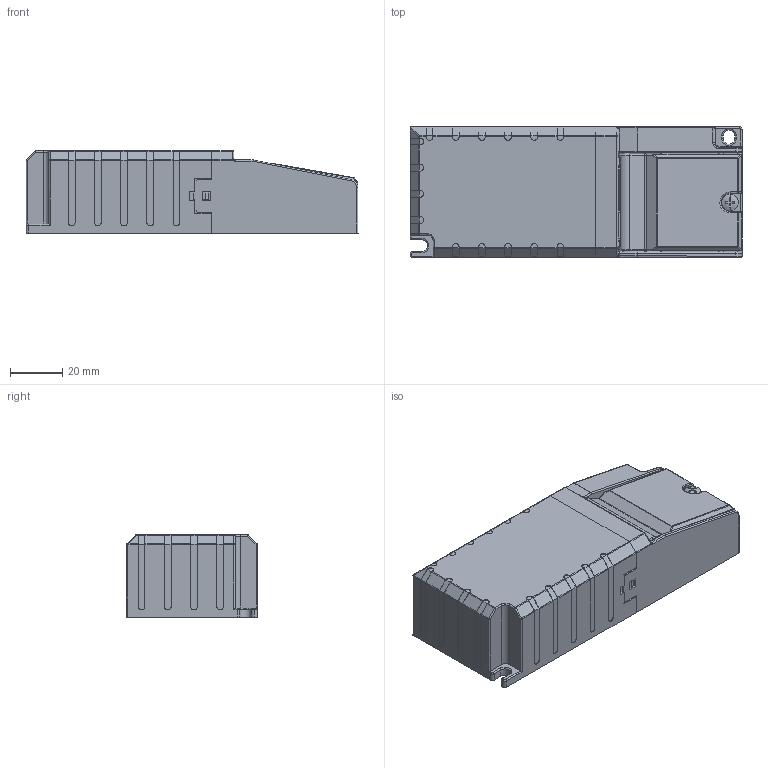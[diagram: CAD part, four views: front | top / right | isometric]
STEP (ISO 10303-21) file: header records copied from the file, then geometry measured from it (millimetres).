
FILE_DESCRIPTION(('Creo Elements/Direct Modeling STEP Export'),'2;1');
FILE_NAME('2D_B2L_DigiLED_CC_48_with_cord_grip.stp','2022-09-13T13:47:30',(''),(''),'PTC Creo Elements/Direct Modeling STEP processor for AP214 (Solid Model)','PTC Creo Elements/Direct Modeling 19.0E 27-Jun-2016 (C) Parametric Technology GmbH','');
FILE_SCHEMA(('AUTOMOTIVE_DESIGN { 1 0 10303 214 1 1 1 1 }'));
Products named in the file (4): cord_grip; Gehaeuseboden_K35; PCB; K35_ZE_Digiled_CC_48
Assembly tree (3 placements, depth 2):
  K35_ZE_Digiled_CC_48
    PCB
    Gehaeuseboden_K35
    cord_grip
Bounding box: 127 x 50 x 31.5 mm (x, y, z)
Volume: 52092.6 mm3; surface area: 62155.3 mm2
Topology: 3 solids, 4 shells, 3040 faces, 8554 edges, 5591 vertices
Faces by surface type: plane 2615, cylinder 293, torus 62, sphere 30, bspline 26, cone 12, extrusion 2
Entity records: 98425 total; most frequent: CARTESIAN_POINT 19961, ORIENTED_EDGE 17052, DIRECTION 14657, EDGE_CURVE 8526, VECTOR 7639, LINE 7637, VERTEX_POINT 5591, AXIS2_PLACEMENT_3D 3509
